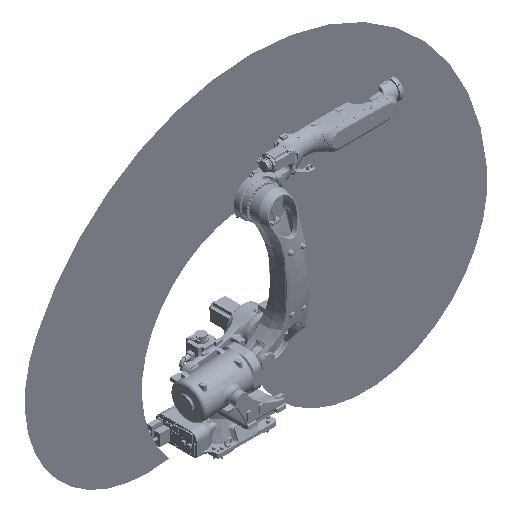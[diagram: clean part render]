
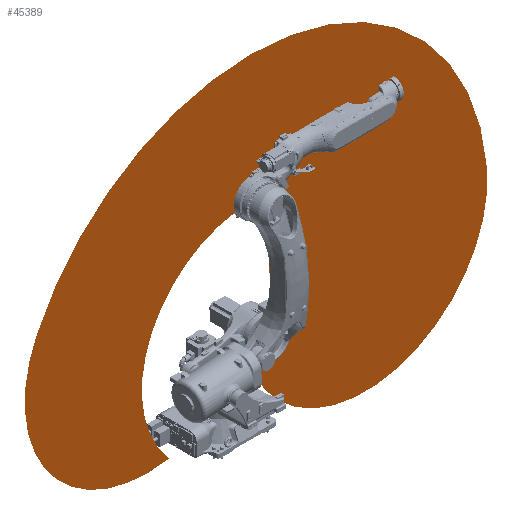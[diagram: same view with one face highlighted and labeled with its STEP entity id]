
A CAD part, isometric view. The second image highlights one B-rep face of the part: STEP entity #45389.
In plain terms, the highlighted planar face has unit normal (0, 1, 0).
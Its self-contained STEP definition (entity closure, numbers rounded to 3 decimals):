
#27320=CIRCLE('',#143540,1095.565);
#27321=CIRCLE('',#143541,1229.837);
#27322=CIRCLE('',#143542,2379.82);
#27323=CIRCLE('',#143543,1229.837);
#27324=CIRCLE('',#143544,2379.82);
#27325=CIRCLE('',#143545,1229.82);
#27326=CIRCLE('',#143546,426.786);
#27327=CIRCLE('',#143547,1229.837);
#30149=PLANE('',#143548);
#37152=FACE_OUTER_BOUND('',#58501,.T.);
#45389=ADVANCED_FACE('',(#37152),#30149,.T.);
#58501=EDGE_LOOP('',(#95572,#95573,#95574,#95575,#95576,#95577,#95578,#95579));
#95572=ORIENTED_EDGE('',*,*,#125978,.T.);
#95573=ORIENTED_EDGE('',*,*,#125979,.T.);
#95574=ORIENTED_EDGE('',*,*,#125980,.T.);
#95575=ORIENTED_EDGE('',*,*,#125981,.T.);
#95576=ORIENTED_EDGE('',*,*,#125982,.T.);
#95577=ORIENTED_EDGE('',*,*,#125983,.T.);
#95578=ORIENTED_EDGE('',*,*,#125984,.T.);
#95579=ORIENTED_EDGE('',*,*,#125985,.T.);
#107435=VERTEX_POINT('',#374784);
#107436=VERTEX_POINT('',#374785);
#107437=VERTEX_POINT('',#374787);
#107438=VERTEX_POINT('',#374789);
#107439=VERTEX_POINT('',#374791);
#107440=VERTEX_POINT('',#374793);
#107441=VERTEX_POINT('',#374795);
#107442=VERTEX_POINT('',#374797);
#125978=EDGE_CURVE('',#107435,#107436,#27320,.T.);
#125979=EDGE_CURVE('',#107436,#107437,#27321,.T.);
#125980=EDGE_CURVE('',#107437,#107438,#27322,.T.);
#125981=EDGE_CURVE('',#107438,#107439,#27323,.T.);
#125982=EDGE_CURVE('',#107439,#107440,#27324,.T.);
#125983=EDGE_CURVE('',#107440,#107441,#27325,.T.);
#125984=EDGE_CURVE('',#107441,#107442,#27326,.T.);
#125985=EDGE_CURVE('',#107442,#107435,#27327,.T.);
#143540=AXIS2_PLACEMENT_3D('',#374783,#176410,#176411);
#143541=AXIS2_PLACEMENT_3D('',#374786,#176412,#176413);
#143542=AXIS2_PLACEMENT_3D('',#374788,#176414,#176415);
#143543=AXIS2_PLACEMENT_3D('',#374790,#176416,#176417);
#143544=AXIS2_PLACEMENT_3D('',#374792,#176418,#176419);
#143545=AXIS2_PLACEMENT_3D('',#374794,#176420,#176421);
#143546=AXIS2_PLACEMENT_3D('',#374796,#176422,#176423);
#143547=AXIS2_PLACEMENT_3D('',#374798,#176424,#176425);
#143548=AXIS2_PLACEMENT_3D('',#374799,#176426,#176427);
#176410=DIRECTION('',(0.,-1.,0.));
#176411=DIRECTION('',(1.,0.,0.));
#176412=DIRECTION('',(0.,1.,0.));
#176413=DIRECTION('',(1.,0.,0.));
#176414=DIRECTION('',(0.,1.,0.));
#176415=DIRECTION('',(1.,0.,0.));
#176416=DIRECTION('',(0.,1.,0.));
#176417=DIRECTION('',(1.,0.,0.));
#176418=DIRECTION('',(0.,1.,0.));
#176419=DIRECTION('',(1.,0.,0.));
#176420=DIRECTION('',(0.,1.,0.));
#176421=DIRECTION('',(1.,0.,0.));
#176422=DIRECTION('',(0.,-1.,0.));
#176423=DIRECTION('',(1.,0.,0.));
#176424=DIRECTION('',(0.,-1.,0.));
#176425=DIRECTION('',(1.,0.,0.));
#176426=DIRECTION('',(0.,1.,0.));
#176427=DIRECTION('',(0.,0.,1.));
#374783=CARTESIAN_POINT('',(330.,0.,680.));
#374784=CARTESIAN_POINT('',(356.073,0.,1775.254));
#374785=CARTESIAN_POINT('',(-492.254,0.,-43.989));
#374786=CARTESIAN_POINT('',(-712.254,0.,1166.011));
#374787=CARTESIAN_POINT('',(-1822.915,0.,1694.152));
#374788=CARTESIAN_POINT('',(330.,0.,680.));
#374789=CARTESIAN_POINT('',(320.727,0.,3059.802));
#374790=CARTESIAN_POINT('',(330.,0.,1830.));
#374791=CARTESIAN_POINT('',(339.273,0.,3059.802));
#374792=CARTESIAN_POINT('',(330.,0.,680.));
#374793=CARTESIAN_POINT('',(2700.765,0.,887.415));
#374794=CARTESIAN_POINT('',(1475.624,0.,780.229));
#374795=CARTESIAN_POINT('',(363.812,0.,254.556));
#374796=CARTESIAN_POINT('',(330.,0.,680.));
#374797=CARTESIAN_POINT('',(513.456,0.,1065.344));
#374798=CARTESIAN_POINT('',(-712.254,0.,1166.011));
#374799=CARTESIAN_POINT('',(-191.127,0.,923.006));
